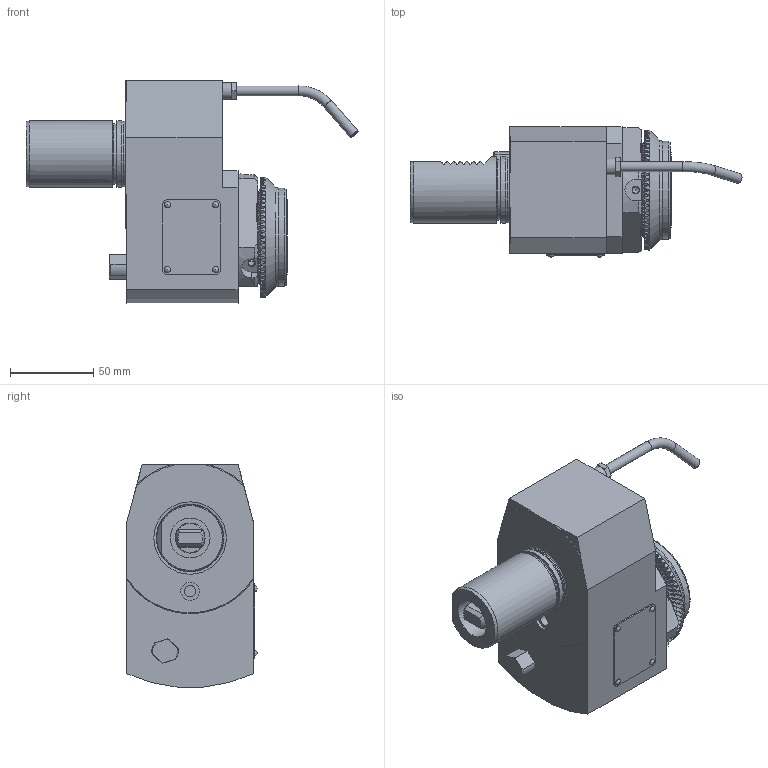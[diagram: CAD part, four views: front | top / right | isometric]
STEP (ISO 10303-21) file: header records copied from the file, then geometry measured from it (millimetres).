
FILE_DESCRIPTION(/* description */ (''),/* implementation_level */ '2;1');
FILE_NAME(/* name */ '123683',/* time_stamp */ '2018-09-12T14:09:14+02:00',/* author */ (''),/* organization */ (''),/* preprocessor_version */ 'ST-DEVELOPER v16.5',/* originating_system */ 'HiCAD 2017 2201.0 Build 268',/* authorisation */ '');
FILE_SCHEMA (('AUTOMOTIVE_DESIGN { 1 0 10303 214 1 1 1 1 }'));
Length unit declared in the file: millimetre
Products named in the file (12): Root; Leeres Teil; 112485_Überwurfschraube_351*; TORUS_1_353*; 00011481_370*; 113692_Kerbnagel 2x4_380*; ROTATIONSTEIL_0_104*; 00090784_10*; ROTATIONSTEIL_1_102*
Assembly tree (11 placements, depth 3):
  Root
    Leeres Teil
      112485_Überwurfschraube_351*
      TORUS_1_353*
      00011481_370*
      113692_Kerbnagel 2x4_380*
      113692_Kerbnagel 2x4_380*
      113692_Kerbnagel 2x4_380*
      113692_Kerbnagel 2x4_380*
      ROTATIONSTEIL_0_104*
      00090784_10*
      ROTATIONSTEIL_1_102*
Bounding box: 199.67 x 78.3 x 133.66 mm (x, y, z)
Volume: 738463.7 mm3; surface area: 92146.5 mm2
Topology: 10 solids, 13 shells, 882 faces, 2395 edges, 1557 vertices
Faces by surface type: plane 440, cone 263, cylinder 151, torus 24, sphere 4
Full cylindrical faces by diameter (mm): 2 x4, 2.2 x4, 4 x5, 6 x3, 6.8 x1, 9 x1, 9.12 x6, 10 x2, 11.1 x1, 11.2 x3, 14 x1, 18 x2, 24 x1, 36 x2, 36.5 x1, 39.4 x1, 40 x2, 45.5 x1, 46 x2, 46.15 x1, 47 x1, 48 x1, 48.3 x1, 50 x1, 52.623 x1, 53 x1, 59 x1, 72 x1
Entity records: 33795 total; most frequent: CARTESIAN_POINT 12238, DIRECTION 4687, ORIENTED_EDGE 4532, EDGE_CURVE 2266, AXIS2_PLACEMENT_3D 1937, VERTEX_POINT 1525, FACE_BOUND 1021, EDGE_LOOP 1017
